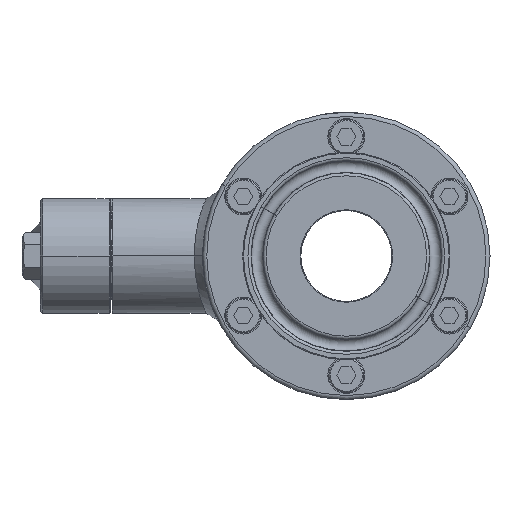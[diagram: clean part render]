
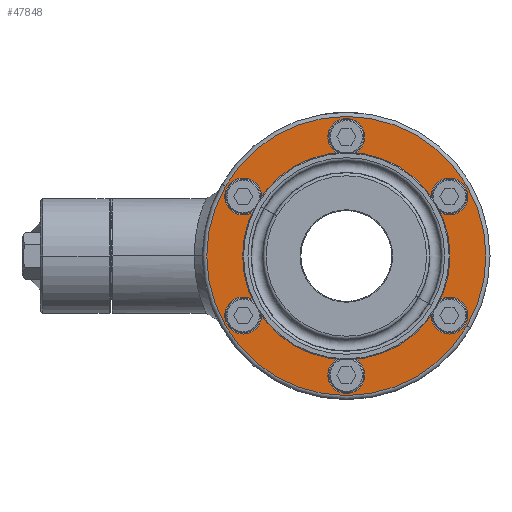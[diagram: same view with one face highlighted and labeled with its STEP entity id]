
A CAD part, left-side view. The second image highlights one B-rep face of the part: STEP entity #47848.
In plain terms, the highlighted planar face has unit normal (-1, 0, 0).
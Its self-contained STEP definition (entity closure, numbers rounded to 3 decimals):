
#20652=CARTESIAN_POINT('',(-36.5,0.,0.));
#20653=DIRECTION('',(1.,0.,0.));
#20654=DIRECTION('',(0.,0.866,0.5));
#20655=AXIS2_PLACEMENT_3D('',#20652,#20653,#20654);
#20660=CARTESIAN_POINT('',(-36.5,0.,0.));
#20661=DIRECTION('',(1.,0.,0.));
#20662=DIRECTION('',(0.,-0.866,-0.5));
#20663=AXIS2_PLACEMENT_3D('',#20660,#20661,#20662);
#20668=CARTESIAN_POINT('',(-36.5,0.,0.));
#20669=DIRECTION('',(-1.,0.,0.));
#20670=DIRECTION('',(0.,-0.866,-0.5));
#20671=AXIS2_PLACEMENT_3D('',#20668,#20669,#20670);
#20676=CARTESIAN_POINT('',(-36.5,0.,0.));
#20677=DIRECTION('',(-1.,0.,0.));
#20678=DIRECTION('',(0.,0.866,0.5));
#20679=AXIS2_PLACEMENT_3D('',#20676,#20677,#20678);
#20684=CARTESIAN_POINT('',(-36.5,-25.115,-14.5));
#20685=DIRECTION('',(-1.,0.,0.));
#20686=DIRECTION('',(0.,-0.866,-0.5));
#20687=AXIS2_PLACEMENT_3D('',#20684,#20685,#20686);
#20692=CARTESIAN_POINT('',(-36.5,-25.115,-14.5));
#20693=DIRECTION('',(-1.,0.,0.));
#20694=DIRECTION('',(0.,0.866,0.5));
#20695=AXIS2_PLACEMENT_3D('',#20692,#20693,#20694);
#20700=CARTESIAN_POINT('',(-36.5,0.,-29.));
#20701=DIRECTION('',(-1.,0.,0.));
#20702=DIRECTION('',(0.,-0.866,-0.5));
#20703=AXIS2_PLACEMENT_3D('',#20700,#20701,#20702);
#20708=CARTESIAN_POINT('',(-36.5,0.,-29.));
#20709=DIRECTION('',(-1.,0.,0.));
#20710=DIRECTION('',(0.,0.866,0.5));
#20711=AXIS2_PLACEMENT_3D('',#20708,#20709,#20710);
#20716=CARTESIAN_POINT('',(-36.5,25.115,-14.5));
#20717=DIRECTION('',(-1.,0.,0.));
#20718=DIRECTION('',(0.,-0.866,-0.5));
#20719=AXIS2_PLACEMENT_3D('',#20716,#20717,#20718);
#20724=CARTESIAN_POINT('',(-36.5,25.115,-14.5));
#20725=DIRECTION('',(-1.,0.,0.));
#20726=DIRECTION('',(0.,0.866,0.5));
#20727=AXIS2_PLACEMENT_3D('',#20724,#20725,#20726);
#20732=CARTESIAN_POINT('',(-36.5,25.115,14.5));
#20733=DIRECTION('',(-1.,0.,0.));
#20734=DIRECTION('',(0.,-0.866,-0.5));
#20735=AXIS2_PLACEMENT_3D('',#20732,#20733,#20734);
#20740=CARTESIAN_POINT('',(-36.5,25.115,14.5));
#20741=DIRECTION('',(-1.,0.,0.));
#20742=DIRECTION('',(0.,0.866,0.5));
#20743=AXIS2_PLACEMENT_3D('',#20740,#20741,#20742);
#20748=CARTESIAN_POINT('',(-36.5,0.,29.));
#20749=DIRECTION('',(-1.,0.,0.));
#20750=DIRECTION('',(0.,-0.866,-0.5));
#20751=AXIS2_PLACEMENT_3D('',#20748,#20749,#20750);
#20756=CARTESIAN_POINT('',(-36.5,0.,29.));
#20757=DIRECTION('',(-1.,0.,0.));
#20758=DIRECTION('',(0.,0.866,0.5));
#20759=AXIS2_PLACEMENT_3D('',#20756,#20757,#20758);
#20764=CARTESIAN_POINT('',(-36.5,-25.115,14.5));
#20765=DIRECTION('',(-1.,0.,0.));
#20766=DIRECTION('',(0.,-0.866,-0.5));
#20767=AXIS2_PLACEMENT_3D('',#20764,#20765,#20766);
#20772=CARTESIAN_POINT('',(-36.5,-25.115,14.5));
#20773=DIRECTION('',(-1.,0.,0.));
#20774=DIRECTION('',(0.,0.866,0.5));
#20775=AXIS2_PLACEMENT_3D('',#20772,#20773,#20774);
#28353=CARTESIAN_POINT('',(-36.5,-18.187,-10.5));
#28354=CARTESIAN_POINT('',(-36.5,18.187,10.5));
#28355=VERTEX_POINT('',#28353);
#28356=VERTEX_POINT('',#28354);
#28365=CARTESIAN_POINT('',(-36.5,29.445,17.));
#28366=CARTESIAN_POINT('',(-36.5,-29.445,-17.));
#28367=VERTEX_POINT('',#28365);
#28368=VERTEX_POINT('',#28366);
#28429=CARTESIAN_POINT('',(-36.5,21.218,12.25));
#28430=CARTESIAN_POINT('',(-36.5,29.012,16.75));
#28431=VERTEX_POINT('',#28429);
#28432=VERTEX_POINT('',#28430);
#28437=CARTESIAN_POINT('',(-36.5,-29.012,-16.75));
#28438=CARTESIAN_POINT('',(-36.5,-21.218,-12.25));
#28439=VERTEX_POINT('',#28437);
#28440=VERTEX_POINT('',#28438);
#28445=CARTESIAN_POINT('',(-36.5,-3.897,-31.25));
#28446=CARTESIAN_POINT('',(-36.5,3.897,-26.75));
#28447=VERTEX_POINT('',#28445);
#28448=VERTEX_POINT('',#28446);
#28453=CARTESIAN_POINT('',(-36.5,21.218,-16.75));
#28454=CARTESIAN_POINT('',(-36.5,29.012,-12.25));
#28455=VERTEX_POINT('',#28453);
#28456=VERTEX_POINT('',#28454);
#28461=CARTESIAN_POINT('',(-36.5,-3.897,26.75));
#28462=CARTESIAN_POINT('',(-36.5,3.897,31.25));
#28463=VERTEX_POINT('',#28461);
#28464=VERTEX_POINT('',#28462);
#28469=CARTESIAN_POINT('',(-36.5,-29.012,12.25));
#28470=CARTESIAN_POINT('',(-36.5,-21.218,16.75));
#28471=VERTEX_POINT('',#28469);
#28472=VERTEX_POINT('',#28470);
#47796=CARTESIAN_POINT('',(-36.5,0.,0.));
#47797=DIRECTION('',(-1.,0.,0.));
#47798=DIRECTION('',(0.,-0.866,-0.5));
#47799=AXIS2_PLACEMENT_3D('',#47796,#47797,#47798);
#47800=PLANE('',#47799);
#47802=ORIENTED_EDGE('',*,*,#47801,.T.);
#47804=ORIENTED_EDGE('',*,*,#47803,.T.);
#47805=EDGE_LOOP('',(#47802,#47804));
#47806=FACE_OUTER_BOUND('',#47805,.F.);
#47807=ORIENTED_EDGE('',*,*,#47779,.T.);
#47809=ORIENTED_EDGE('',*,*,#47808,.T.);
#47810=EDGE_LOOP('',(#47807,#47809));
#47811=FACE_BOUND('',#47810,.F.);
#47813=ORIENTED_EDGE('',*,*,#47812,.T.);
#47815=ORIENTED_EDGE('',*,*,#47814,.T.);
#47816=EDGE_LOOP('',(#47813,#47815));
#47817=FACE_BOUND('',#47816,.F.);
#47819=ORIENTED_EDGE('',*,*,#47818,.T.);
#47821=ORIENTED_EDGE('',*,*,#47820,.T.);
#47822=EDGE_LOOP('',(#47819,#47821));
#47823=FACE_BOUND('',#47822,.F.);
#47825=ORIENTED_EDGE('',*,*,#47824,.T.);
#47827=ORIENTED_EDGE('',*,*,#47826,.T.);
#47828=EDGE_LOOP('',(#47825,#47827));
#47829=FACE_BOUND('',#47828,.F.);
#47831=ORIENTED_EDGE('',*,*,#47830,.T.);
#47833=ORIENTED_EDGE('',*,*,#47832,.T.);
#47834=EDGE_LOOP('',(#47831,#47833));
#47835=FACE_BOUND('',#47834,.F.);
#47837=ORIENTED_EDGE('',*,*,#47836,.T.);
#47839=ORIENTED_EDGE('',*,*,#47838,.T.);
#47840=EDGE_LOOP('',(#47837,#47839));
#47841=FACE_BOUND('',#47840,.F.);
#47843=ORIENTED_EDGE('',*,*,#47842,.T.);
#47845=ORIENTED_EDGE('',*,*,#47844,.T.);
#47846=EDGE_LOOP('',(#47843,#47845));
#47847=FACE_BOUND('',#47846,.F.);
#47848=ADVANCED_FACE('',(#47806,#47811,#47817,#47823,#47829,#47835,#47841,
#47847),#47800,.T.);
#20656=CIRCLE('',#20655,34.);
#20664=CIRCLE('',#20663,34.);
#20672=CIRCLE('',#20671,21.);
#20680=CIRCLE('',#20679,21.);
#20688=CIRCLE('',#20687,4.5);
#20696=CIRCLE('',#20695,4.5);
#20704=CIRCLE('',#20703,4.5);
#20712=CIRCLE('',#20711,4.5);
#20720=CIRCLE('',#20719,4.5);
#20728=CIRCLE('',#20727,4.5);
#20736=CIRCLE('',#20735,4.5);
#20744=CIRCLE('',#20743,4.5);
#20752=CIRCLE('',#20751,4.5);
#20760=CIRCLE('',#20759,4.5);
#20768=CIRCLE('',#20767,4.5);
#20776=CIRCLE('',#20775,4.5);
#47779=EDGE_CURVE('',#28355,#28356,#20672,.T.);
#47801=EDGE_CURVE('',#28367,#28368,#20656,.T.);
#47803=EDGE_CURVE('',#28368,#28367,#20664,.T.);
#47808=EDGE_CURVE('',#28356,#28355,#20680,.T.);
#47812=EDGE_CURVE('',#28439,#28440,#20688,.T.);
#47814=EDGE_CURVE('',#28440,#28439,#20696,.T.);
#47818=EDGE_CURVE('',#28447,#28448,#20704,.T.);
#47820=EDGE_CURVE('',#28448,#28447,#20712,.T.);
#47824=EDGE_CURVE('',#28455,#28456,#20720,.T.);
#47826=EDGE_CURVE('',#28456,#28455,#20728,.T.);
#47830=EDGE_CURVE('',#28431,#28432,#20736,.T.);
#47832=EDGE_CURVE('',#28432,#28431,#20744,.T.);
#47836=EDGE_CURVE('',#28463,#28464,#20752,.T.);
#47838=EDGE_CURVE('',#28464,#28463,#20760,.T.);
#47842=EDGE_CURVE('',#28471,#28472,#20768,.T.);
#47844=EDGE_CURVE('',#28472,#28471,#20776,.T.);
